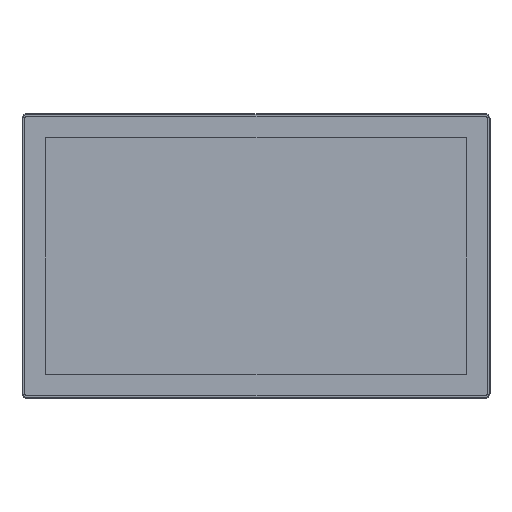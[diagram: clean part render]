
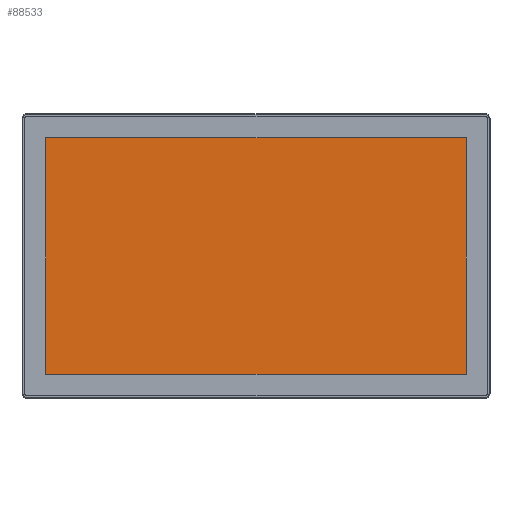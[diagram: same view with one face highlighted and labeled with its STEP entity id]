
A CAD part, top view. The second image highlights one B-rep face of the part: STEP entity #88533.
In plain terms, the highlighted planar face has unit normal (0, 0, 1).
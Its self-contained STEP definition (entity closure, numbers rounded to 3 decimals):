
#2267 = CARTESIAN_POINT ( 'NONE',  ( 238.92, 134.655, -0.05 ) ) ;
#3403 = AXIS2_PLACEMENT_3D ( 'NONE', #30031, #36430, #79017 ) ;
#7231 = CARTESIAN_POINT ( 'NONE',  ( 238.92, -134.655, -0.05 ) ) ;
#7910 = DIRECTION ( 'NONE',  ( 0., -1., 0. ) ) ;
#8656 = CARTESIAN_POINT ( 'NONE',  ( -238.92, 134.655, -0.05 ) ) ;
#12530 = CARTESIAN_POINT ( 'NONE',  ( 238.92, 134.655, -0.05 ) ) ;
#16574 = DIRECTION ( 'NONE',  ( 1., 0., 0. ) ) ;
#16937 = VECTOR ( 'NONE', #16574, 1000. ) ;
#18387 = VERTEX_POINT ( 'NONE', #12530 ) ;
#21258 = VERTEX_POINT ( 'NONE', #77523 ) ;
#22723 = PLANE ( 'NONE',  #3403 ) ;
#24223 = EDGE_LOOP ( 'NONE', ( #62418, #91258, #56348, #86394 ) ) ;
#24501 = VECTOR ( 'NONE', #7910, 1000. ) ;
#27358 = CARTESIAN_POINT ( 'NONE',  ( -238.92, 134.655, -0.05 ) ) ;
#30031 = CARTESIAN_POINT ( 'NONE',  ( 0., 0., -0.05 ) ) ;
#32834 = FACE_OUTER_BOUND ( 'NONE', #24223, .T. ) ;
#36430 = DIRECTION ( 'NONE',  ( 0., 0., 1. ) ) ;
#37280 = VECTOR ( 'NONE', #79349, 1000. ) ;
#37775 = EDGE_CURVE ( 'NONE', #38471, #18387, #51133, .T. ) ;
#37864 = VERTEX_POINT ( 'NONE', #64473 ) ;
#38471 = VERTEX_POINT ( 'NONE', #7231 ) ;
#42307 = LINE ( 'NONE', #8656, #53293 ) ;
#47389 = EDGE_CURVE ( 'NONE', #18387, #21258, #42307, .T. ) ;
#47574 = DIRECTION ( 'NONE',  ( -1., 0., 0. ) ) ;
#49357 = EDGE_CURVE ( 'NONE', #37864, #38471, #52030, .T. ) ;
#51133 = LINE ( 'NONE', #2267, #37280 ) ;
#51585 = CARTESIAN_POINT ( 'NONE',  ( -238.92, -134.655, -0.05 ) ) ;
#52030 = LINE ( 'NONE', #51585, #16937 ) ;
#53293 = VECTOR ( 'NONE', #47574, 1000. ) ;
#56348 = ORIENTED_EDGE ( 'NONE', *, *, #37775, .T. ) ;
#58240 = EDGE_CURVE ( 'NONE', #21258, #37864, #62905, .T. ) ;
#62418 = ORIENTED_EDGE ( 'NONE', *, *, #58240, .T. ) ;
#62905 = LINE ( 'NONE', #27358, #24501 ) ;
#64473 = CARTESIAN_POINT ( 'NONE',  ( -238.92, -134.655, -0.05 ) ) ;
#77523 = CARTESIAN_POINT ( 'NONE',  ( -238.92, 134.655, -0.05 ) ) ;
#79017 = DIRECTION ( 'NONE',  ( 1., 0., 0. ) ) ;
#79349 = DIRECTION ( 'NONE',  ( 0., 1., 0. ) ) ;
#86394 = ORIENTED_EDGE ( 'NONE', *, *, #47389, .T. ) ;
#88533 = ADVANCED_FACE ( 'NONE', ( #32834 ), #22723, .T. ) ;
#91258 = ORIENTED_EDGE ( 'NONE', *, *, #49357, .T. ) ;
